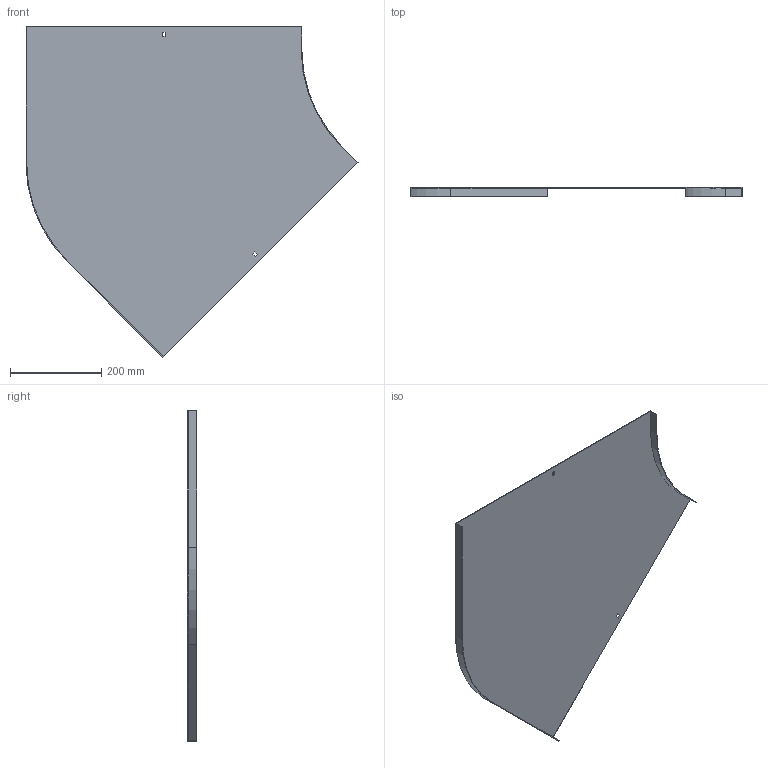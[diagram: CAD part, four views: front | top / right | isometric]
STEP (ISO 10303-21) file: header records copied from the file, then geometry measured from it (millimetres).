
FILE_DESCRIPTION (( 'STEP AP214' ), '1' );
FILE_NAME ('B2_11N3R600.step', '2025-02-21T10:51:14', ( '' ), ( '' ), 'SwSTEP 2.0', 'SolidWorks 2023', '' );
FILE_SCHEMA (( 'AUTOMOTIVE_DESIGN' ));
Length unit declared in the file: millimetre
Products named in the file (1): B2_11N3R600
Bounding box: 725.78 x 20 x 722.81 mm (x, y, z)
Volume: 572224 mm3; surface area: 766730.8 mm2
Topology: 1 solids, 1 shells, 26 faces, 72 edges, 48 vertices
Faces by surface type: plane 22, cylinder 4
Entity records: 855 total; most frequent: CARTESIAN_POINT 147, ORIENTED_EDGE 144, DIRECTION 134, EDGE_CURVE 72, LINE 64, VECTOR 64, VERTEX_POINT 48, AXIS2_PLACEMENT_3D 35
